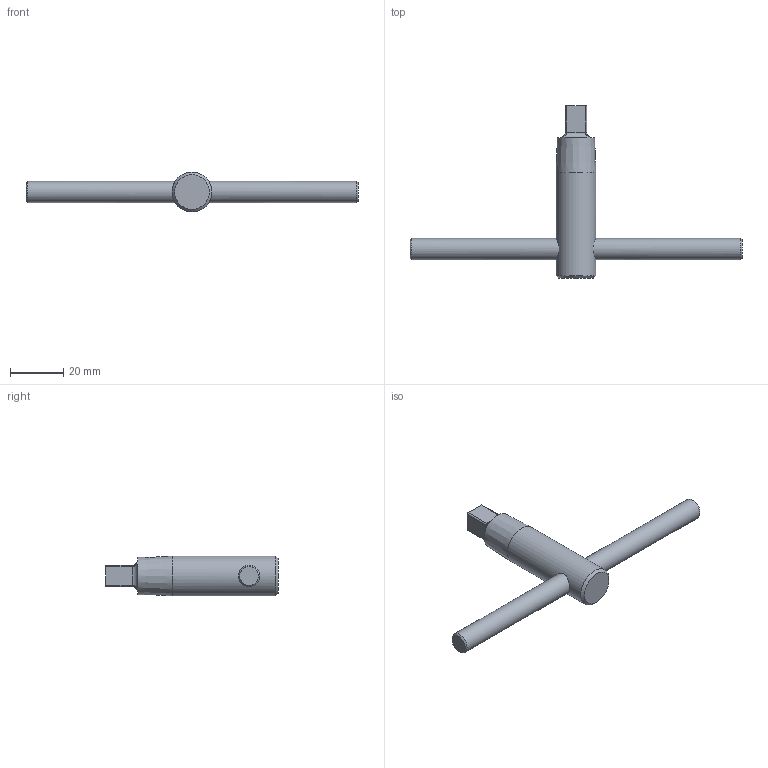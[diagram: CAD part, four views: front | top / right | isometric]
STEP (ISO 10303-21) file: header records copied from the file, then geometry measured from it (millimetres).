
FILE_DESCRIPTION(/* description */ (''),/* implementation_level */ '2;1');
FILE_NAME(/* name */ '',/* time_stamp */ '2025-10-17T09:53:54+03:00',/* author */ ('Arina Rekina'),/* organization */ (''),/* preprocessor_version */ 'ST-DEVELOPER v19.2',/* originating_system */ 'Autodesk Inventor 2024',/* authorisation */ '');
FILE_SCHEMA (('AUTOMOTIVE_DESIGN { 1 0 10303 214 3 1 1 }'));
Length unit declared in the file: millimetre
Products named in the file (1): Ключ
Bounding box: 125 x 65 x 15 mm (x, y, z)
Volume: 15540.4 mm3; surface area: 5903 mm2
Topology: 1 solids, 1 shells, 31 faces, 73 edges, 45 vertices
Faces by surface type: plane 12, cylinder 11, cone 4, bspline 4
Full cylindrical faces by diameter (mm): 8 x2, 15 x1
Entity records: 1184 total; most frequent: CARTESIAN_POINT 456, ORIENTED_EDGE 146, DIRECTION 140, EDGE_CURVE 73, AXIS2_PLACEMENT_3D 56, VERTEX_POINT 45, EDGE_LOOP 32, FACE_OUTER_BOUND 31
